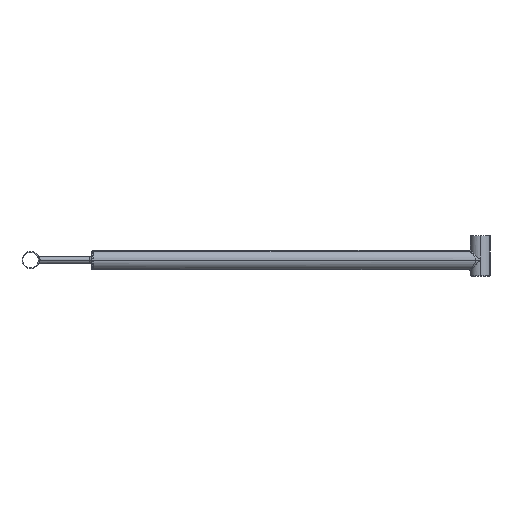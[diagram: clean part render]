
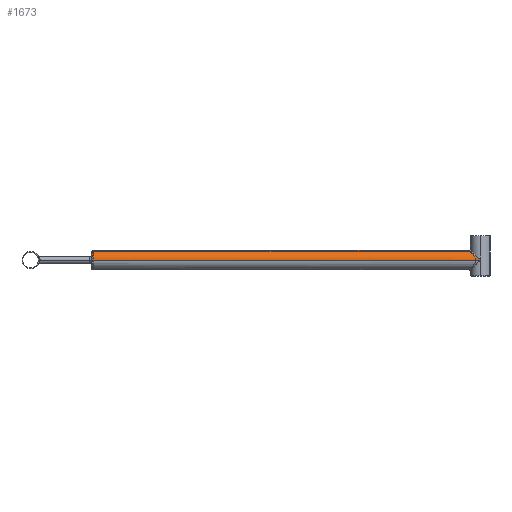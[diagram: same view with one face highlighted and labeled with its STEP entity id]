
A CAD part, left-side view. The second image highlights one B-rep face of the part: STEP entity #1673.
In plain terms, the highlighted cylindrical face has radius 24.15 mm (diameter 48.3 mm), a partial arc.
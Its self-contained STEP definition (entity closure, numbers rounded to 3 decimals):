
#69=CARTESIAN_POINT('',(0.,853.,0.));
#70=DIRECTION('',(0.,-1.,0.));
#71=DIRECTION('',(1.,0.,0.));
#72=AXIS2_PLACEMENT_3D('',#69,#70,#71);
#74=CARTESIAN_POINT('',(0.,853.,0.));
#75=DIRECTION('',(0.,-1.,0.));
#76=DIRECTION('',(0.,0.,1.));
#77=AXIS2_PLACEMENT_3D('',#74,#75,#76);
#83=CARTESIAN_POINT('',(24.15,-100.,0.));
#84=CARTESIAN_POINT('',(24.15,-100.,0.));
#85=CARTESIAN_POINT('',(24.15,-99.31,0.618));
#86=CARTESIAN_POINT('',(24.103,-97.934,1.851));
#87=CARTESIAN_POINT('',(23.891,-95.887,3.686));
#88=CARTESIAN_POINT('',(23.542,-93.878,5.486));
#89=CARTESIAN_POINT('',(23.065,-91.929,7.233));
#90=CARTESIAN_POINT('',(22.468,-90.052,8.914));
#91=CARTESIAN_POINT('',(21.763,-88.264,10.517));
#92=CARTESIAN_POINT('',(20.962,-86.573,12.032));
#93=CARTESIAN_POINT('',(20.078,-84.987,13.454));
#94=CARTESIAN_POINT('',(19.125,-83.511,14.776));
#95=CARTESIAN_POINT('',(18.114,-82.148,15.998));
#96=CARTESIAN_POINT('',(17.057,-80.897,17.118));
#97=CARTESIAN_POINT('',(15.965,-79.757,18.14));
#98=CARTESIAN_POINT('',(14.847,-78.725,19.065));
#99=CARTESIAN_POINT('',(13.711,-77.797,19.896));
#100=CARTESIAN_POINT('',(12.563,-76.968,20.639));
#101=CARTESIAN_POINT('',(11.409,-76.232,21.298));
#102=CARTESIAN_POINT('',(10.253,-75.586,21.878));
#103=CARTESIAN_POINT('',(9.098,-75.023,22.382));
#104=CARTESIAN_POINT('',(7.946,-74.538,22.816));
#105=CARTESIAN_POINT('',(6.798,-74.128,23.184));
#106=CARTESIAN_POINT('',(5.655,-73.788,23.488));
#107=CARTESIAN_POINT('',(4.517,-73.515,23.733));
#108=CARTESIAN_POINT('',(3.383,-73.306,23.921));
#109=CARTESIAN_POINT('',(2.253,-73.158,24.054));
#110=CARTESIAN_POINT('',(1.126,-73.07,24.133));
#111=CARTESIAN_POINT('',(-0.001,-73.04,
24.159));
#112=CARTESIAN_POINT('',(-1.127,-73.07,24.132));
#113=CARTESIAN_POINT('',(-2.254,-73.158,24.053));
#114=CARTESIAN_POINT('',(-3.384,-73.306,23.921));
#115=CARTESIAN_POINT('',(-4.518,-73.515,23.733));
#116=CARTESIAN_POINT('',(-5.656,-73.789,23.488));
#117=CARTESIAN_POINT('',(-6.799,-74.129,23.183));
#118=CARTESIAN_POINT('',(-7.947,-74.539,22.816));
#119=CARTESIAN_POINT('',(-9.099,-75.023,22.382));
#120=CARTESIAN_POINT('',(-10.254,-75.586,21.877));
#121=CARTESIAN_POINT('',(-11.41,-76.233,21.298));
#122=CARTESIAN_POINT('',(-12.564,-76.968,20.639));
#123=CARTESIAN_POINT('',(-13.712,-77.798,19.896));
#124=CARTESIAN_POINT('',(-14.848,-78.726,19.064));
#125=CARTESIAN_POINT('',(-15.966,-79.758,18.139));
#126=CARTESIAN_POINT('',(-17.058,-80.898,17.118));
#127=CARTESIAN_POINT('',(-18.115,-82.148,15.997));
#128=CARTESIAN_POINT('',(-19.125,-83.512,14.775));
#129=CARTESIAN_POINT('',(-20.079,-84.988,13.453));
#130=CARTESIAN_POINT('',(-20.962,-86.573,12.032));
#131=CARTESIAN_POINT('',(-21.763,-88.265,10.516));
#132=CARTESIAN_POINT('',(-22.468,-90.053,8.913));
#133=CARTESIAN_POINT('',(-23.065,-91.929,7.232));
#134=CARTESIAN_POINT('',(-23.542,-93.879,5.485));
#135=CARTESIAN_POINT('',(-23.891,-95.888,3.685));
#136=CARTESIAN_POINT('',(-24.103,-97.934,1.851));
#137=CARTESIAN_POINT('',(-24.15,-99.311,
0.618));
#138=CARTESIAN_POINT('',(-24.15,-100.,
0.));
#139=CARTESIAN_POINT('',(-24.15,-100.,
0.));
#141=CARTESIAN_POINT('',(-24.15,-100.,
0.));
#162=CARTESIAN_POINT('',(24.15,-100.,0.));
#309=DIRECTION('',(0.,1.,0.));
#310=VECTOR('',#309,953.);
#311=CARTESIAN_POINT('',(24.15,-100.,0.));
#312=LINE('',#311,#310);
#313=DIRECTION('',(0.,-1.,0.));
#314=VECTOR('',#313,953.);
#315=CARTESIAN_POINT('',(-24.15,853.,0.));
#316=LINE('',#315,#314);
#1552=VERTEX_POINT('',#141);
#1553=VERTEX_POINT('',#162);
#1560=CARTESIAN_POINT('',(-24.15,853.,0.));
#1561=VERTEX_POINT('',#1560);
#1562=CARTESIAN_POINT('',(0.,853.,24.15));
#1563=VERTEX_POINT('',#1562);
#1564=CARTESIAN_POINT('',(24.15,853.,0.));
#1565=VERTEX_POINT('',#1564);
#1658=CARTESIAN_POINT('',(0.,0.,0.));
#1659=DIRECTION('',(0.,1.,0.));
#1660=DIRECTION('',(1.,0.,0.));
#1661=AXIS2_PLACEMENT_3D('',#1658,#1659,#1660);
#1662=CYLINDRICAL_SURFACE('',#1661,24.15);
#1664=ORIENTED_EDGE('',*,*,#1663,.T.);
#1666=ORIENTED_EDGE('',*,*,#1665,.F.);
#1667=ORIENTED_EDGE('',*,*,#1652,.F.);
#1668=ORIENTED_EDGE('',*,*,#1650,.F.);
#1670=ORIENTED_EDGE('',*,*,#1669,.F.);
#1671=EDGE_LOOP('',(#1664,#1666,#1667,#1668,#1670));
#1672=FACE_OUTER_BOUND('',#1671,.F.);
#1673=ADVANCED_FACE('',(#1672),#1662,.T.);
#73=CIRCLE('',#72,24.15);
#78=CIRCLE('',#77,24.15);
#140=B_SPLINE_CURVE_WITH_KNOTS('',3,(#83,#84,#85,#86,#87,#88,#89,#90,#91,#92,
#93,#94,#95,#96,#97,#98,#99,#100,#101,#102,#103,#104,#105,#106,#107,#108,#109,
#110,#111,#112,#113,#114,#115,#116,#117,#118,#119,#120,#121,#122,#123,#124,#125,
#126,#127,#128,#129,#130,#131,#132,#133,#134,#135,#136,#137,#138,#139),
.UNSPECIFIED.,.F.,.F.,(4,1,1,1,1,1,1,1,1,1,1,1,1,1,1,1,1,1,1,1,1,1,1,1,1,1,1,1,
1,1,1,1,1,1,1,1,1,1,1,1,1,1,1,1,1,1,1,1,1,1,1,1,1,1,4),(0.,0.,
0.029,0.057,0.086,0.113,
0.14,0.166,0.191,0.215,
0.238,0.26,0.281,0.3,
0.319,0.337,0.353,0.369,
0.384,0.399,0.413,0.426,
0.439,0.452,0.464,0.476,
0.488,0.5,0.512,0.524,
0.536,0.548,0.561,0.574,
0.587,0.601,0.616,0.631,
0.647,0.664,0.681,0.7,
0.719,0.74,0.762,0.785,
0.809,0.834,0.86,0.887,
0.914,0.943,0.971,1.,1.),
.UNSPECIFIED.);
#1650=EDGE_CURVE('',#1565,#1563,#73,.T.);
#1652=EDGE_CURVE('',#1563,#1561,#78,.T.);
#1663=EDGE_CURVE('',#1553,#1552,#140,.T.);
#1665=EDGE_CURVE('',#1561,#1552,#316,.T.);
#1669=EDGE_CURVE('',#1553,#1565,#312,.T.);
